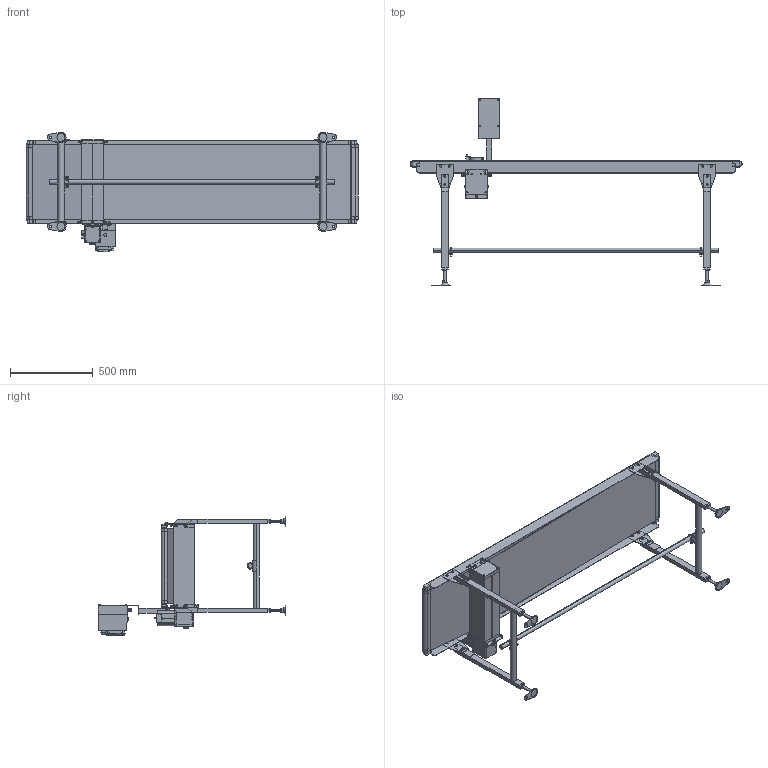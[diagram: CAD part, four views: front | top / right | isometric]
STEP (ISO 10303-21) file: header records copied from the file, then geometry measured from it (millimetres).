
FILE_DESCRIPTION (( 'STEP AP214' ), '1' );
FILE_NAME ('FSDHS-450-2000-R.STEP', '2023-04-20T23:40:11', ( '' ), ( '' ), 'SwSTEP 2.0', 'SolidWorks 2017', '' );
FILE_SCHEMA (( 'AUTOMOTIVE_DESIGN' ));
Length unit declared in the file: millimetre
Products named in the file (1): FSDHS-450-2000-R
Bounding box: 2001.4 x 1131 x 719.99 mm (x, y, z)
Volume: 25204874.7 mm3; surface area: 8565115.7 mm2
Topology: 48 solids, 54 shells, 2266 faces, 5572 edges, 3646 vertices
Faces by surface type: plane 1470, cylinder 733, cone 45, bspline 14, torus 4
Entity records: 94319 total; most frequent: CARTESIAN_POINT 13679, DIRECTION 11636, ORIENTED_EDGE 11124, EDGE_CURVE 5562, AXIS2_PLACEMENT_3D 3894, LINE 3848, VECTOR 3848, VERTEX_POINT 3646
